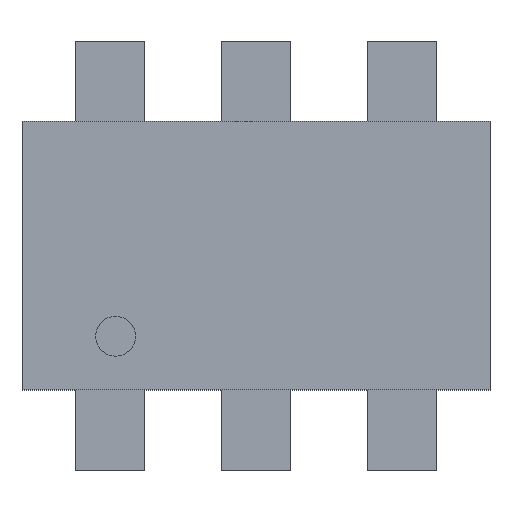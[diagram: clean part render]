
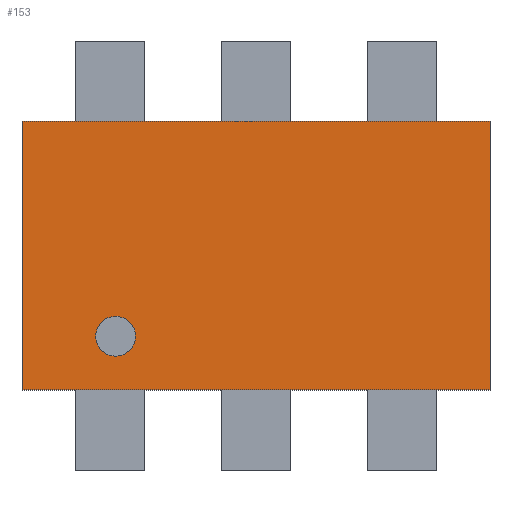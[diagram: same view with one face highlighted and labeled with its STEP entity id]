
A CAD part, top view. The second image highlights one B-rep face of the part: STEP entity #153.
In plain terms, the highlighted planar face has unit normal (0, 0, 1).
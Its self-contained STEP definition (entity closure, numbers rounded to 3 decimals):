
#24 = VERTEX_POINT('',#25);
#25 = CARTESIAN_POINT('',(-1.525,-0.875,1.45));
#31 = EDGE_CURVE('',#24,#32,#34,.T.);
#32 = VERTEX_POINT('',#33);
#33 = CARTESIAN_POINT('',(1.525,-0.875,1.45));
#34 = LINE('',#35,#36);
#35 = CARTESIAN_POINT('',(-1.525,-0.875,1.45));
#36 = VECTOR('',#37,1.);
#37 = DIRECTION('',(1.,0.,0.));
#62 = EDGE_CURVE('',#32,#63,#65,.T.);
#63 = VERTEX_POINT('',#64);
#64 = CARTESIAN_POINT('',(1.525,0.875,1.45));
#65 = LINE('',#66,#67);
#66 = CARTESIAN_POINT('',(1.525,-0.875,1.45));
#67 = VECTOR('',#68,1.);
#68 = DIRECTION('',(0.,1.,0.));
#93 = EDGE_CURVE('',#63,#94,#96,.T.);
#94 = VERTEX_POINT('',#95);
#95 = CARTESIAN_POINT('',(-1.525,0.875,1.45));
#96 = LINE('',#97,#98);
#97 = CARTESIAN_POINT('',(1.525,0.875,1.45));
#98 = VECTOR('',#99,1.);
#99 = DIRECTION('',(-1.,0.,0.));
#124 = EDGE_CURVE('',#94,#24,#125,.T.);
#125 = LINE('',#126,#127);
#126 = CARTESIAN_POINT('',(-1.525,0.875,1.45));
#127 = VECTOR('',#128,1.);
#128 = DIRECTION('',(0.,-1.,0.));
#153 = ADVANCED_FACE('',(#154),#160,.T.);
#154 = FACE_BOUND('',#155,.T.);
#155 = EDGE_LOOP('',(#156,#157,#158,#159));
#156 = ORIENTED_EDGE('',*,*,#31,.T.);
#157 = ORIENTED_EDGE('',*,*,#62,.T.);
#158 = ORIENTED_EDGE('',*,*,#93,.T.);
#159 = ORIENTED_EDGE('',*,*,#124,.T.);
#160 = PLANE('',#161);
#161 = AXIS2_PLACEMENT_3D('',#162,#163,#164);
#162 = CARTESIAN_POINT('',(0.,0.,1.45));
#163 = DIRECTION('',(0.,0.,1.));
#164 = DIRECTION('',(1.,0.,-0.));
